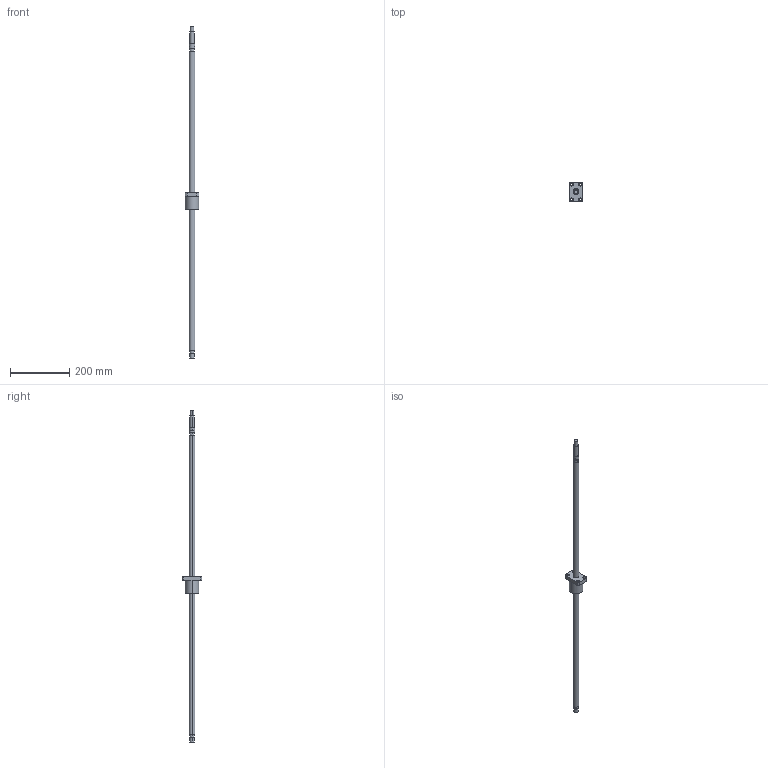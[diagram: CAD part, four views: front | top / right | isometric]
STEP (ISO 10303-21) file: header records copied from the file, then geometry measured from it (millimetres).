
FILE_DESCRIPTION((''),'2;1');
FILE_NAME('R20-20K2-FSC-1010-1120','2008-04-03T',('wcwu'),(''),'PRO/ENGINEER BY PARAMETRIC TECHNOLOGY CORPORATION, 2005070','PRO/ENGINEER BY PARAMETRIC TECHNOLOGY CORPORATION, 2005070','');
FILE_SCHEMA(('CONFIG_CONTROL_DESIGN'));
Length unit declared in the file: millimetre
Products named in the file (1): R20-20K2-FSC-1010-1120
Bounding box: 46 x 66 x 1120 mm (x, y, z)
Volume: 428286.2 mm3; surface area: 81594.3 mm2
Topology: 1 solids, 1 shells, 65 faces, 146 edges, 96 vertices
Faces by surface type: cylinder 40, plane 25
Entity records: 1906 total; most frequent: DIRECTION 360, CARTESIAN_POINT 307, ORIENTED_EDGE 292, AXIS2_PLACEMENT_3D 149, EDGE_CURVE 146, VERTEX_POINT 96, EDGE_LOOP 86, CIRCLE 84
